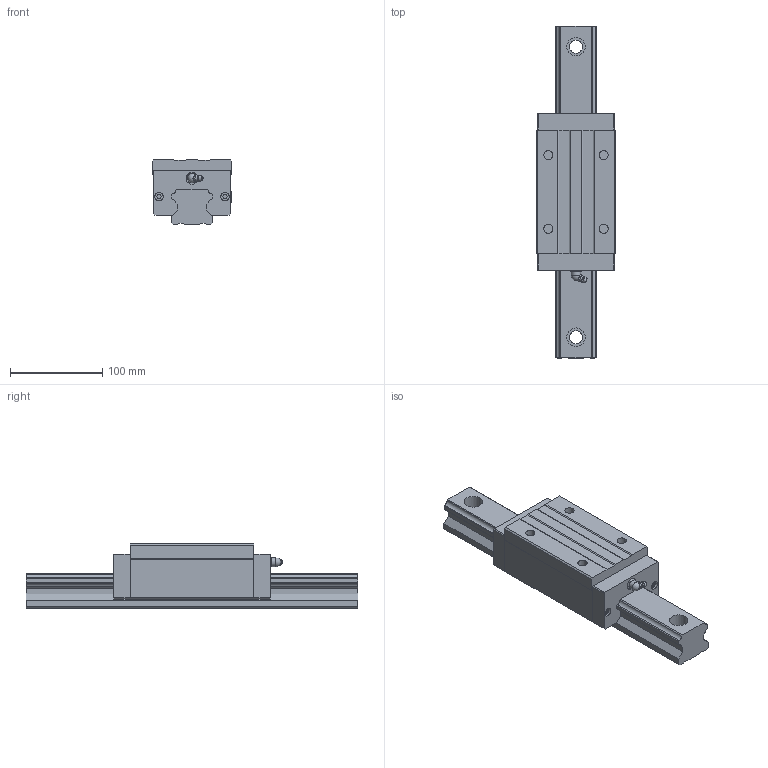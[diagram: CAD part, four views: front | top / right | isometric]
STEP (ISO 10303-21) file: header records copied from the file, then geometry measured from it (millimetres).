
FILE_DESCRIPTION(/* description */ (''),/* implementation_level */ '2;1');
FILE_NAME(/* name */ 'MSA45LS',/* time_stamp */ '2003-12-29T11:12:33+08:00',/* author */ (''),/* organization */ (''),/* preprocessor_version */ 'ST-DEVELOPER v9',/* originating_system */ '',/* authorisation */ '');
FILE_SCHEMA (('CONFIG_CONTROL_DESIGN'));
Length unit declared in the file: millimetre
Products named in the file (1): zirc5932mwac
Bounding box: 86 x 360 x 70 mm (x, y, z)
Volume: 1135935.1 mm3; surface area: 141796.3 mm2
Topology: 3 solids, 3 shells, 172 faces, 435 edges, 287 vertices
Faces by surface type: plane 130, cylinder 31, torus 7, sphere 2, cone 1, bspline 1
Full cylindrical faces by diameter (mm): 4.5 x4, 9 x4, 10 x5, 13 x2, 14 x4, 20 x4
Entity records: 5198 total; most frequent: CARTESIAN_POINT 1046, ORIENTED_EDGE 810, DIRECTION 807, EDGE_CURVE 405, LINE 301, VECTOR 301, VERTEX_POINT 284, AXIS2_PLACEMENT_3D 253
